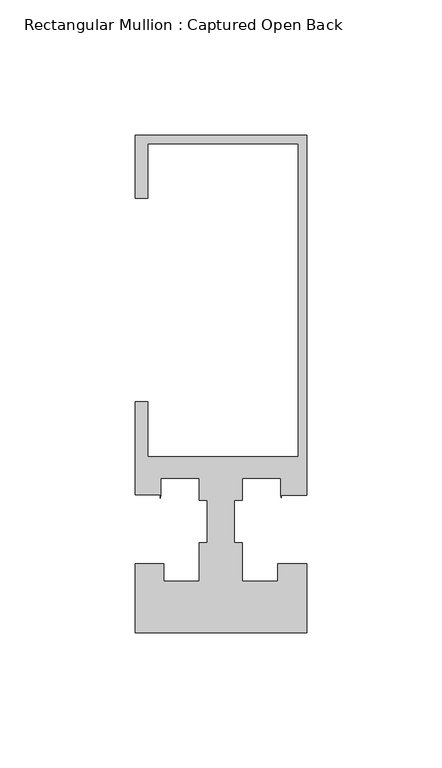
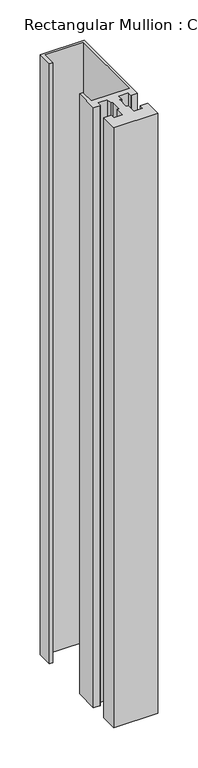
"""IFC4 building model written with IfcOpenShell, lengths in millimetres: member geometry, Rectangular Mullion : Captured Open Back."""

from ifc_helpers import new_model, si_unit, frame, origin, place, context, project, spatial, polyline, outline, extrude, source, transform, mapped, element, save


def rectangular_mullion_captured_open_back_de788541(model_context):
    return source(origin(), model_context, "Body", "SweptSolid", [
        extrude(outline(polyline([(-63.5205663, 114.3), (0.0, 114.3), (0.0, -18.9488461), (-9.3386849, -18.9488461), (-9.3386849, -19.8905485), (-9.5249909, -18.948961), (-9.5249909, -12.7), (-23.8124458, -12.7), (-23.8124458, -20.8793999), (-26.7860526, -20.8793999), (-26.7860526, -36.6491027), (-23.8124461, -36.6491027), (-23.8124461, -50.8001709), (-10.7229117, -50.8001709), (-10.7229117, -44.4247364), (-0.0205663, -44.4247364), (-0.0205663, -69.8502416), (-63.5205663, -69.8502416), (-63.5205663, -44.4245655), (-52.8345479, -44.4245655), (-52.8345479, -50.8001709), (-39.6874472, -50.8001709), (-39.6874472, -36.6491027), (-36.738785, -36.6491027), (-36.738785, -20.8793999), (-39.7916658, -20.8793999), (-39.7916658, -12.7), (-53.9751125, -12.7), (-53.9751125, -18.933673), (-54.1413824, -20.0839351), (-54.1413824, -18.933673), (-63.5205663, -18.933673), (-63.5205663, 15.5833982), (-58.7374998, 15.5833982), (-58.7374998, -4.7625735), (-3.175617, -4.7625735), (-3.175617, 111.1250145), (-58.7374998, 111.1250145), (-58.7374998, 90.8721193), (-63.5205663, 90.8721193), (-63.5205663, 114.3)])), frame((0.0, 0.0, -914.4), z_axis=(0.0, 0.0, 1.0), x_axis=(1.0, 0.0, 0.0)), (0.0, 0.0, 1.0), 914.4),
    ])


if __name__ == "__main__":
    model = new_model("IFC4")
    model_context = context("Model", 3, world=origin())
    ifc_project = project(units=[si_unit("LENGTHUNIT", "METRE", prefix="MILLI")], contexts=[model_context])
    site = spatial("IfcSite", under=ifc_project)
    building = spatial("IfcBuilding", under=site)
    placement = place(None, origin())
    rectangular_mullion_captured_open_back_shape = rectangular_mullion_captured_open_back_de788541(model_context)
    element("IfcMember", 1, ObjectType="Rectangular Mullion : Captured Open Back", at=placement, inside=building, context=model_context, shape_type="MappedRepresentation", body=[
        mapped(rectangular_mullion_captured_open_back_shape, transform((0.0, 0.0, 0.0), x_axis=(1.0, 0.0, 0.0), y_axis=(0.0, 1.0, 0.0), z_axis=(0.0, 0.0, 1.0))),
    ])
    save(model, "model.ifc")
